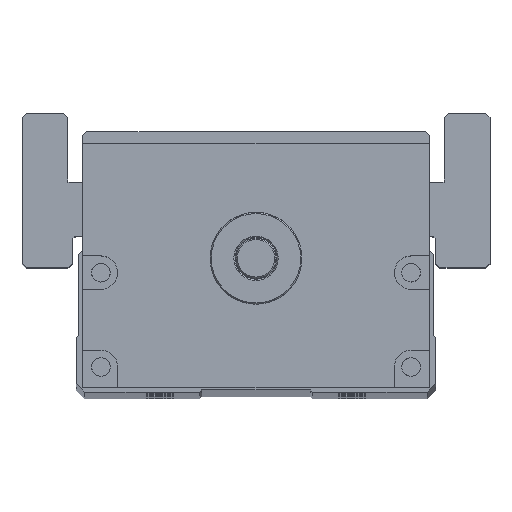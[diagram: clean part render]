
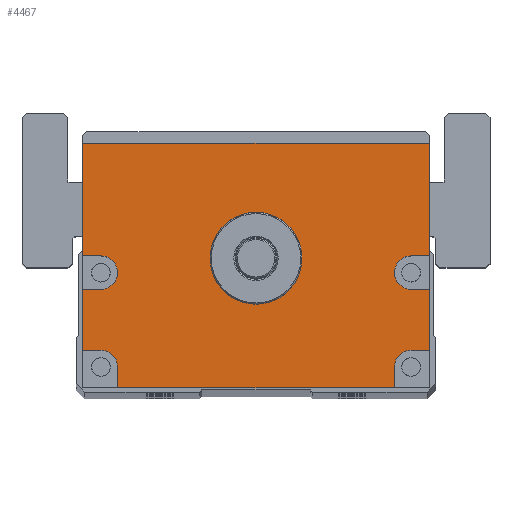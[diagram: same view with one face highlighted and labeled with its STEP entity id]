
A CAD part, top view. The second image highlights one B-rep face of the part: STEP entity #4467.
In plain terms, the highlighted planar face has unit normal (0, 0, 1).
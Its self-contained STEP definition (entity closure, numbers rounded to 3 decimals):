
#3791=FACE_BOUND('',#6152,.T.);
#3792=FACE_BOUND('',#6153,.T.);
#4467=ADVANCED_FACE('',(#3791,#3792),#4963,.T.);
#4963=PLANE('',#15347);
#6152=EDGE_LOOP('',(#10133,#10134,#10135,#10136,#10137,#10138,#10139,#10140,
#10141,#10142,#10143,#10144,#10145,#10146,#10147,#10148,#10149,#10150));
#6153=EDGE_LOOP('',(#10151));
#7078=LINE('',#22130,#7889);
#7080=LINE('',#22138,#7891);
#7081=LINE('',#22141,#7892);
#7082=LINE('',#22143,#7893);
#7083=LINE('',#22147,#7894);
#7084=LINE('',#22149,#7895);
#7085=LINE('',#22150,#7896);
#7086=LINE('',#22152,#7897);
#7087=LINE('',#22156,#7898);
#7088=LINE('',#22158,#7899);
#7089=LINE('',#22160,#7900);
#7090=LINE('',#22164,#7901);
#7091=LINE('',#22166,#7902);
#7092=LINE('',#22168,#7903);
#7889=VECTOR('',#17682,1.);
#7891=VECTOR('',#17690,1.);
#7892=VECTOR('',#17691,1.);
#7893=VECTOR('',#17692,1.);
#7894=VECTOR('',#17695,1.);
#7895=VECTOR('',#17696,1.);
#7896=VECTOR('',#17697,1.);
#7897=VECTOR('',#17698,1.);
#7898=VECTOR('',#17701,1.);
#7899=VECTOR('',#17702,1.);
#7900=VECTOR('',#17703,1.);
#7901=VECTOR('',#17706,1.);
#7902=VECTOR('',#17707,1.);
#7903=VECTOR('',#17708,1.);
#10133=ORIENTED_EDGE('',*,*,#13541,.F.);
#10134=ORIENTED_EDGE('',*,*,#13542,.T.);
#10135=ORIENTED_EDGE('',*,*,#13543,.F.);
#10136=ORIENTED_EDGE('',*,*,#13544,.F.);
#10137=ORIENTED_EDGE('',*,*,#13545,.F.);
#10138=ORIENTED_EDGE('',*,*,#13546,.T.);
#10139=ORIENTED_EDGE('',*,*,#13537,.T.);
#10140=ORIENTED_EDGE('',*,*,#13547,.T.);
#10141=ORIENTED_EDGE('',*,*,#13548,.F.);
#10142=ORIENTED_EDGE('',*,*,#13549,.F.);
#10143=ORIENTED_EDGE('',*,*,#13550,.F.);
#10144=ORIENTED_EDGE('',*,*,#13551,.T.);
#10145=ORIENTED_EDGE('',*,*,#13552,.F.);
#10146=ORIENTED_EDGE('',*,*,#13553,.F.);
#10147=ORIENTED_EDGE('',*,*,#13554,.F.);
#10148=ORIENTED_EDGE('',*,*,#13555,.T.);
#10149=ORIENTED_EDGE('',*,*,#13556,.F.);
#10150=ORIENTED_EDGE('',*,*,#13557,.F.);
#10151=ORIENTED_EDGE('',*,*,#13523,.T.);
#12091=VERTEX_POINT('',#22101);
#12104=VERTEX_POINT('',#22129);
#12105=VERTEX_POINT('',#22131);
#12108=VERTEX_POINT('',#22139);
#12109=VERTEX_POINT('',#22140);
#12110=VERTEX_POINT('',#22142);
#12111=VERTEX_POINT('',#22144);
#12112=VERTEX_POINT('',#22146);
#12113=VERTEX_POINT('',#22148);
#12114=VERTEX_POINT('',#22151);
#12115=VERTEX_POINT('',#22153);
#12116=VERTEX_POINT('',#22155);
#12117=VERTEX_POINT('',#22157);
#12118=VERTEX_POINT('',#22159);
#12119=VERTEX_POINT('',#22161);
#12120=VERTEX_POINT('',#22163);
#12121=VERTEX_POINT('',#22165);
#12122=VERTEX_POINT('',#22167);
#12123=VERTEX_POINT('',#22169);
#13523=EDGE_CURVE('',#12091,#12091,#14449,.T.);
#13537=EDGE_CURVE('',#12105,#12104,#7078,.T.);
#13541=EDGE_CURVE('',#12108,#12109,#7080,.T.);
#13542=EDGE_CURVE('',#12108,#12110,#7081,.T.);
#13543=EDGE_CURVE('',#12111,#12110,#7082,.T.);
#13544=EDGE_CURVE('',#12112,#12111,#14460,.T.);
#13545=EDGE_CURVE('',#12113,#12112,#7083,.T.);
#13546=EDGE_CURVE('',#12113,#12105,#7084,.T.);
#13547=EDGE_CURVE('',#12104,#12114,#7085,.T.);
#13548=EDGE_CURVE('',#12115,#12114,#7086,.T.);
#13549=EDGE_CURVE('',#12116,#12115,#14461,.T.);
#13550=EDGE_CURVE('',#12117,#12116,#7087,.T.);
#13551=EDGE_CURVE('',#12117,#12118,#7088,.T.);
#13552=EDGE_CURVE('',#12119,#12118,#7089,.T.);
#13553=EDGE_CURVE('',#12120,#12119,#14462,.T.);
#13554=EDGE_CURVE('',#12121,#12120,#7090,.T.);
#13555=EDGE_CURVE('',#12121,#12122,#7091,.T.);
#13556=EDGE_CURVE('',#12123,#12122,#7092,.T.);
#13557=EDGE_CURVE('',#12109,#12123,#14463,.T.);
#14449=CIRCLE('',#15329,11.);
#14460=CIRCLE('',#15343,4.);
#14461=CIRCLE('',#15344,4.);
#14462=CIRCLE('',#15345,4.);
#14463=CIRCLE('',#15346,4.);
#15329=AXIS2_PLACEMENT_3D('',#22100,#17655,#17656);
#15343=AXIS2_PLACEMENT_3D('',#22145,#17693,#17694);
#15344=AXIS2_PLACEMENT_3D('',#22154,#17699,#17700);
#15345=AXIS2_PLACEMENT_3D('',#22162,#17704,#17705);
#15346=AXIS2_PLACEMENT_3D('',#22170,#17709,#17710);
#15347=AXIS2_PLACEMENT_3D('',#22171,#17711,#17712);
#17655=DIRECTION('',(0.,0.,-1.));
#17656=DIRECTION('',(1.,0.,0.));
#17682=DIRECTION('',(-1.,0.,0.));
#17690=DIRECTION('',(-1.,0.,0.));
#17691=DIRECTION('',(0.,1.,0.));
#17692=DIRECTION('',(1.,0.,0.));
#17693=DIRECTION('',(0.,0.,1.));
#17694=DIRECTION('',(1.,0.,0.));
#17695=DIRECTION('',(-1.,0.,0.));
#17696=DIRECTION('',(0.,1.,0.));
#17697=DIRECTION('',(0.,-1.,0.));
#17698=DIRECTION('',(-1.,0.,0.));
#17699=DIRECTION('',(0.,0.,1.));
#17700=DIRECTION('',(1.,0.,0.));
#17701=DIRECTION('',(1.,0.,0.));
#17702=DIRECTION('',(0.,-1.,0.));
#17703=DIRECTION('',(-1.,0.,0.));
#17704=DIRECTION('',(0.,0.,1.));
#17705=DIRECTION('',(1.,0.,0.));
#17706=DIRECTION('',(0.,1.,0.));
#17707=DIRECTION('',(1.,0.,0.));
#17708=DIRECTION('',(0.,-1.,0.));
#17709=DIRECTION('',(0.,0.,1.));
#17710=DIRECTION('',(1.,0.,0.));
#17711=DIRECTION('',(0.,0.,1.));
#17712=DIRECTION('',(1.,0.,0.));
#22100=CARTESIAN_POINT('',(0.,0.,782.5));
#22101=CARTESIAN_POINT('',(11.,0.,782.5));
#22129=CARTESIAN_POINT('',(-41.5,27.5,782.5));
#22130=CARTESIAN_POINT('',(41.5,27.5,782.5));
#22131=CARTESIAN_POINT('',(41.5,27.5,782.5));
#22138=CARTESIAN_POINT('',(41.5,-22.,782.5));
#22139=CARTESIAN_POINT('',(41.5,-22.,782.5));
#22140=CARTESIAN_POINT('',(37.115,-22.,782.5));
#22141=CARTESIAN_POINT('',(41.5,-31.,782.5));
#22142=CARTESIAN_POINT('',(41.5,-7.431,782.5));
#22143=CARTESIAN_POINT('',(41.5,-7.431,782.5));
#22144=CARTESIAN_POINT('',(37.115,-7.431,782.5));
#22145=CARTESIAN_POINT('',(37.115,-3.431,782.5));
#22146=CARTESIAN_POINT('',(37.115,0.569,782.5));
#22147=CARTESIAN_POINT('',(41.5,0.569,782.5));
#22148=CARTESIAN_POINT('',(41.5,0.569,782.5));
#22149=CARTESIAN_POINT('',(41.5,-31.,782.5));
#22150=CARTESIAN_POINT('',(-41.5,27.5,782.5));
#22151=CARTESIAN_POINT('',(-41.5,0.569,782.5));
#22152=CARTESIAN_POINT('',(41.5,0.569,782.5));
#22153=CARTESIAN_POINT('',(-37.115,0.569,782.5));
#22154=CARTESIAN_POINT('',(-37.115,-3.431,782.5));
#22155=CARTESIAN_POINT('',(-37.115,-7.431,782.5));
#22156=CARTESIAN_POINT('',(41.5,-7.431,782.5));
#22157=CARTESIAN_POINT('',(-41.5,-7.431,782.5));
#22158=CARTESIAN_POINT('',(-41.5,27.5,782.5));
#22159=CARTESIAN_POINT('',(-41.5,-22.,782.5));
#22160=CARTESIAN_POINT('',(41.5,-22.,782.5));
#22161=CARTESIAN_POINT('',(-37.115,-22.,782.5));
#22162=CARTESIAN_POINT('',(-37.115,-26.,782.5));
#22163=CARTESIAN_POINT('',(-33.115,-26.,782.5));
#22164=CARTESIAN_POINT('',(-33.115,-31.,782.5));
#22165=CARTESIAN_POINT('',(-33.115,-31.,782.5));
#22166=CARTESIAN_POINT('',(-41.5,-31.,782.5));
#22167=CARTESIAN_POINT('',(33.115,-31.,782.5));
#22168=CARTESIAN_POINT('',(33.115,-31.,782.5));
#22169=CARTESIAN_POINT('',(33.115,-26.,782.5));
#22170=CARTESIAN_POINT('',(37.115,-26.,782.5));
#22171=CARTESIAN_POINT('',(41.5,-31.,782.5));
